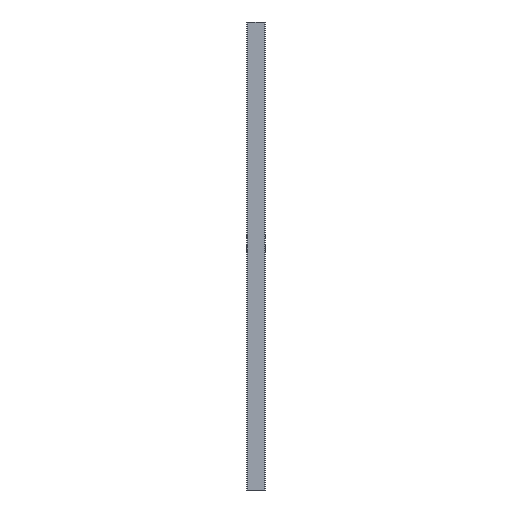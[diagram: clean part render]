
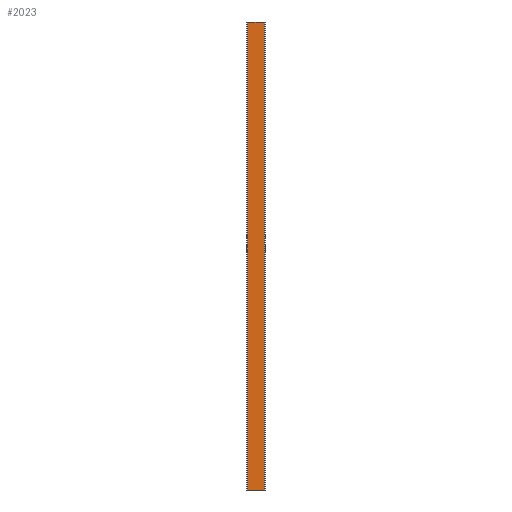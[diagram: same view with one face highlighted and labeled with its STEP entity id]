
A CAD part, left-side view. The second image highlights one B-rep face of the part: STEP entity #2023.
In plain terms, the highlighted planar face has unit normal (-1, 0, 0).
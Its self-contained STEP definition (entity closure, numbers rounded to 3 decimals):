
#678 = DIRECTION ( 'NONE',  ( 0., -1., 0. ) ) ;
#1426 = EDGE_CURVE ( 'NONE', #1671, #7689, #5411, .T. ) ;
#1671 = VERTEX_POINT ( 'NONE', #4325 ) ;
#2023 = ADVANCED_FACE ( 'NONE', ( #7331 ), #4721, .F. ) ;
#2114 = CARTESIAN_POINT ( 'NONE',  ( -20., -18., 1000. ) ) ;
#2196 = DIRECTION ( 'NONE',  ( 0., 0., -1. ) ) ;
#2615 = LINE ( 'NONE', #7799, #5119 ) ;
#2887 = LINE ( 'NONE', #7628, #3500 ) ;
#3500 = VECTOR ( 'NONE', #678, 1000. ) ;
#3625 = ORIENTED_EDGE ( 'NONE', *, *, #1426, .F. ) ;
#3700 = DIRECTION ( 'NONE',  ( 0., 0., -1. ) ) ;
#3752 = LINE ( 'NONE', #7006, #5115 ) ;
#3823 = DIRECTION ( 'NONE',  ( 0., 0., -1. ) ) ;
#4064 = ORIENTED_EDGE ( 'NONE', *, *, #6805, .T. ) ;
#4325 = CARTESIAN_POINT ( 'NONE',  ( -20., 18., 1000. ) ) ;
#4620 = AXIS2_PLACEMENT_3D ( 'NONE', #2114, #4748, #2196 ) ;
#4721 = PLANE ( 'NONE',  #4620 ) ;
#4748 = DIRECTION ( 'NONE',  ( 1., 0., 0. ) ) ;
#5115 = VECTOR ( 'NONE', #3700, 1000. ) ;
#5119 = VECTOR ( 'NONE', #3823, 1000. ) ;
#5273 = CARTESIAN_POINT ( 'NONE',  ( -20., 18., 0. ) ) ;
#5411 = LINE ( 'NONE', #6297, #7794 ) ;
#6293 = DIRECTION ( 'NONE',  ( 0., -1., 0. ) ) ;
#6297 = CARTESIAN_POINT ( 'NONE',  ( -20., -18., 1000. ) ) ;
#6628 = CARTESIAN_POINT ( 'NONE',  ( -20., -18., 0. ) ) ;
#6784 = EDGE_CURVE ( 'NONE', #8105, #7031, #2887, .T. ) ;
#6805 = EDGE_CURVE ( 'NONE', #1671, #8105, #3752, .T. ) ;
#6861 = ORIENTED_EDGE ( 'NONE', *, *, #6784, .T. ) ;
#7006 = CARTESIAN_POINT ( 'NONE',  ( -20., 18., 1000. ) ) ;
#7031 = VERTEX_POINT ( 'NONE', #6628 ) ;
#7312 = EDGE_LOOP ( 'NONE', ( #6861, #7735, #3625, #4064 ) ) ;
#7331 = FACE_OUTER_BOUND ( 'NONE', #7312, .T. ) ;
#7385 = EDGE_CURVE ( 'NONE', #7689, #7031, #2615, .T. ) ;
#7417 = CARTESIAN_POINT ( 'NONE',  ( -20., -18., 1000. ) ) ;
#7628 = CARTESIAN_POINT ( 'NONE',  ( -20., -18., 0. ) ) ;
#7689 = VERTEX_POINT ( 'NONE', #7417 ) ;
#7735 = ORIENTED_EDGE ( 'NONE', *, *, #7385, .F. ) ;
#7794 = VECTOR ( 'NONE', #6293, 1000. ) ;
#7799 = CARTESIAN_POINT ( 'NONE',  ( -20., -18., 1000. ) ) ;
#8105 = VERTEX_POINT ( 'NONE', #5273 ) ;
